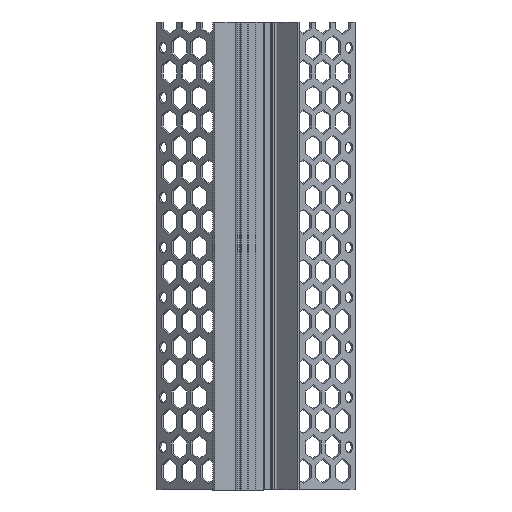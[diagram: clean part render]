
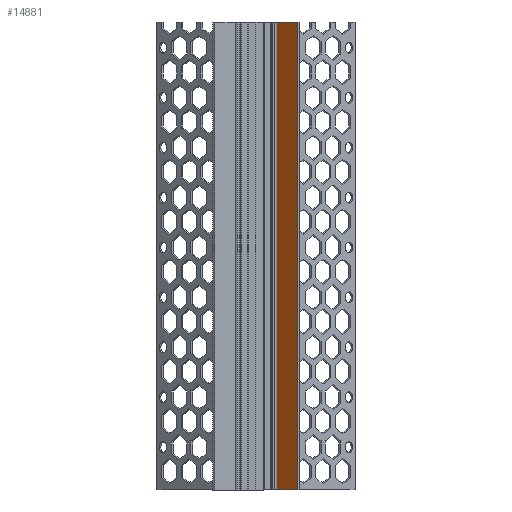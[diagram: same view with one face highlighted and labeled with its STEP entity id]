
A CAD part, front view. The second image highlights one B-rep face of the part: STEP entity #14881.
In plain terms, the highlighted planar face has unit normal (-0.707, -0.707, 0).
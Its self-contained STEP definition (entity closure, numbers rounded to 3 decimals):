
#994=FACE_OUTER_BOUND('',#1820,.T.);
#1820=EDGE_LOOP('',(#12428,#12429,#12430,#12431));
#2728=LINE('',#20853,#4618);
#3739=LINE('',#22934,#5629);
#3740=LINE('',#22937,#5630);
#3741=LINE('',#22938,#5631);
#4618=VECTOR('',#17150,10.);
#5629=VECTOR('',#18933,10.);
#5630=VECTOR('',#18936,10.);
#5631=VECTOR('',#18937,10.);
#6296=VERTEX_POINT('',#20850);
#6297=VERTEX_POINT('',#20852);
#6981=VERTEX_POINT('',#22932);
#6982=VERTEX_POINT('',#22936);
#7878=EDGE_CURVE('',#6296,#6297,#2728,.T.);
#8920=EDGE_CURVE('',#6981,#6297,#3739,.T.);
#8921=EDGE_CURVE('',#6981,#6982,#3740,.T.);
#8922=EDGE_CURVE('',#6982,#6296,#3741,.T.);
#12428=ORIENTED_EDGE('',*,*,#8921,.F.);
#12429=ORIENTED_EDGE('',*,*,#8920,.T.);
#12430=ORIENTED_EDGE('',*,*,#7878,.F.);
#12431=ORIENTED_EDGE('',*,*,#8922,.F.);
#13571=PLANE('',#15658);
#14881=ADVANCED_FACE('',(#994),#13571,.T.);
#15658=AXIS2_PLACEMENT_3D('',#22935,#18934,#18935);
#17150=DIRECTION('',(0.707,-0.707,0.));
#18933=DIRECTION('',(0.,0.,1.));
#18934=DIRECTION('center_axis',(-0.707,-0.707,0.));
#18935=DIRECTION('ref_axis',(0.707,-0.707,0.));
#18936=DIRECTION('',(-0.707,0.707,0.));
#18937=DIRECTION('',(0.,0.,1.));
#20850=CARTESIAN_POINT('',(6.626,7.648,150.));
#20852=CARTESIAN_POINT('',(13.281,0.993,150.));
#20853=CARTESIAN_POINT('',(13.281,0.993,150.));
#22932=CARTESIAN_POINT('',(13.281,0.993,0.));
#22934=CARTESIAN_POINT('',(13.281,0.993,0.));
#22935=CARTESIAN_POINT('Origin',(6.626,7.648,0.));
#22936=CARTESIAN_POINT('',(6.626,7.648,0.));
#22937=CARTESIAN_POINT('',(13.281,0.993,0.));
#22938=CARTESIAN_POINT('',(6.626,7.648,0.));
